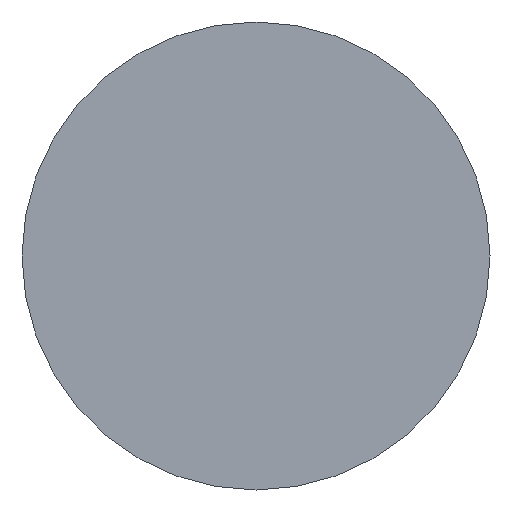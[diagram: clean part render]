
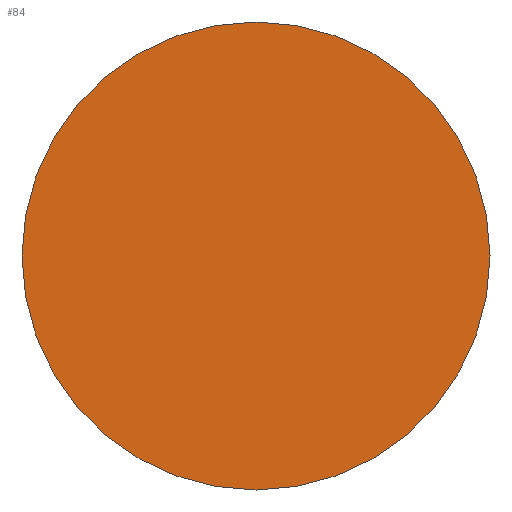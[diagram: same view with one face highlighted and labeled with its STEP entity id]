
A CAD part, front view. The second image highlights one B-rep face of the part: STEP entity #84.
In plain terms, the highlighted planar face has unit normal (0, -1, 0).
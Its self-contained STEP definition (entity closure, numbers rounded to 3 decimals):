
#68=CARTESIAN_POINT('',(-10.75,0.0,0.0));
#69=DIRECTION('',(0.0,-1.0,0.0));
#70=DIRECTION('',(0.0,0.0,-1.0));
#71=AXIS2_PLACEMENT_3D('',#68,#69,#70);
#72=PLANE('',#71);
#73=CARTESIAN_POINT('',(-21.5,0.0,0.0));
#74=VERTEX_POINT('',#73);
#75=CARTESIAN_POINT('',(0.0,0.0,0.0));
#76=DIRECTION('',(0.0,1.0,0.0));
#77=DIRECTION('',(-1.0,0.0,0.0));
#78=AXIS2_PLACEMENT_3D('',#75,#76,#77);
#79=CIRCLE('',#78,21.5);
#80=EDGE_CURVE('',#74,#74,#79,.T.);
#81=ORIENTED_EDGE('',*,*,#80,.F.);
#82=EDGE_LOOP('',(#81));
#83=FACE_OUTER_BOUND('',#82,.T.);
#84=ADVANCED_FACE('',(#83),#72,.T.);
